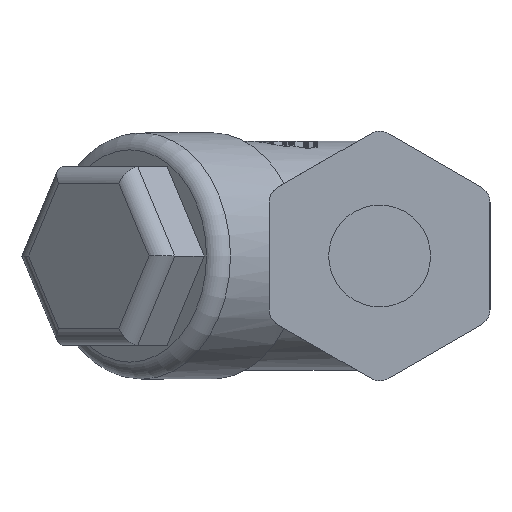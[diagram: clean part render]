
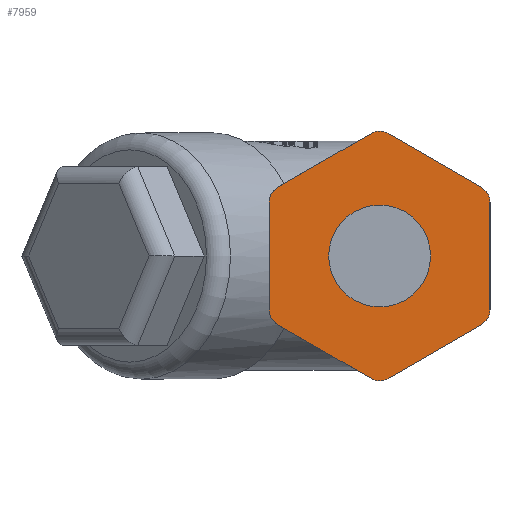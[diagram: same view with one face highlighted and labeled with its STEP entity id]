
A CAD part, left-side view. The second image highlights one B-rep face of the part: STEP entity #7959.
In plain terms, the highlighted planar face has unit normal (-1, 0, 0).
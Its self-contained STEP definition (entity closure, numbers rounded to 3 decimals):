
#7959=ADVANCED_FACE('',(#15030,#15032),#15034,.F.);
#15030=FACE_BOUND('',#15031,.T.);
#15031=EDGE_LOOP('',(#20180,#20181,#20182,#20183,#20184,#20185,#20186,#20187,#20188,
#20189,#20190,#20191));
#15032=FACE_BOUND('',#15033,.T.);
#15033=EDGE_LOOP('',(#20192));
#15034=PLANE('',#15035);
#15035=AXIS2_PLACEMENT_3D('',#15036,#15037,#15038);
#15036=CARTESIAN_POINT('',(146.309,58.497,0.));
#15037=DIRECTION('',(1.,0.,0.));
#15038=DIRECTION('',(0.,0.,-1.));
#20180=ORIENTED_EDGE('',*,*,#21099,.F.);
#20181=ORIENTED_EDGE('',*,*,#21095,.T.);
#20182=ORIENTED_EDGE('',*,*,#21109,.F.);
#20183=ORIENTED_EDGE('',*,*,#21111,.T.);
#20184=ORIENTED_EDGE('',*,*,#21113,.F.);
#20185=ORIENTED_EDGE('',*,*,#21115,.T.);
#20186=ORIENTED_EDGE('',*,*,#21117,.F.);
#20187=ORIENTED_EDGE('',*,*,#21119,.T.);
#20188=ORIENTED_EDGE('',*,*,#21120,.F.);
#20189=ORIENTED_EDGE('',*,*,#21070,.T.);
#20190=ORIENTED_EDGE('',*,*,#21092,.F.);
#20191=ORIENTED_EDGE('',*,*,#21098,.T.);
#20192=ORIENTED_EDGE('',*,*,#20197,.T.);
#20197=EDGE_CURVE('',#22773,#22773,#22774,.T.);
#21070=EDGE_CURVE('',#24504,#24502,#24505,.T.);
#21092=EDGE_CURVE('',#24543,#24502,#24545,.T.);
#21095=EDGE_CURVE('',#24550,#24548,#24551,.T.);
#21098=EDGE_CURVE('',#24543,#24553,#24555,.T.);
#21099=EDGE_CURVE('',#24550,#24553,#24556,.T.);
#21109=EDGE_CURVE('',#24571,#24548,#24573,.T.);
#21111=EDGE_CURVE('',#24571,#24574,#24576,.T.);
#21113=EDGE_CURVE('',#24577,#24574,#24579,.T.);
#21115=EDGE_CURVE('',#24577,#24580,#24582,.T.);
#21117=EDGE_CURVE('',#24583,#24580,#24585,.T.);
#21119=EDGE_CURVE('',#24583,#24586,#24588,.T.);
#21120=EDGE_CURVE('',#24504,#24586,#24589,.T.);
#22773=VERTEX_POINT('',#27070);
#22774=CIRCLE('',#27071,6.);
#24502=VERTEX_POINT('',#31959);
#24504=VERTEX_POINT('',#31963);
#24505=LINE('',#31964,#31965);
#24543=VERTEX_POINT('',#32140);
#24545=CIRCLE('',#32144,2.);
#24548=VERTEX_POINT('',#32152);
#24550=VERTEX_POINT('',#32156);
#24551=LINE('',#32157,#32158);
#24553=VERTEX_POINT('',#32163);
#24555=LINE('',#32167,#32168);
#24556=CIRCLE('',#32170,2.);
#24571=VERTEX_POINT('',#32209);
#24573=CIRCLE('',#32213,2.);
#24574=VERTEX_POINT('',#32217);
#24576=LINE('',#32221,#32222);
#24577=VERTEX_POINT('',#32224);
#24579=CIRCLE('',#32228,2.);
#24580=VERTEX_POINT('',#32232);
#24582=LINE('',#32236,#32237);
#24583=VERTEX_POINT('',#32239);
#24585=CIRCLE('',#32243,2.);
#24586=VERTEX_POINT('',#32247);
#24588=LINE('',#32251,#32252);
#24589=CIRCLE('',#32254,2.);
#27070=CARTESIAN_POINT('',(146.309,52.497,0.));
#27071=AXIS2_PLACEMENT_3D('',#27072,#27073,#27074);
#27072=CARTESIAN_POINT('',(146.309,58.497,0.));
#27073=DIRECTION('',(1.,0.,0.));
#27074=DIRECTION('',(0.,-1.,0.));
#31959=CARTESIAN_POINT('',(146.309,70.497,8.083));
#31963=CARTESIAN_POINT('',(146.309,59.497,14.434));
#31964=CARTESIAN_POINT('',(146.309,59.497,14.434));
#31965=VECTOR('',#31966,1.);
#31966=DIRECTION('',(0.,0.866,-0.5));
#32140=CARTESIAN_POINT('',(146.309,71.497,6.351));
#32144=AXIS2_PLACEMENT_3D('',#32145,#32146,#32147);
#32145=CARTESIAN_POINT('',(146.309,69.497,6.351));
#32146=DIRECTION('',(1.,0.,0.));
#32147=DIRECTION('',(0.,1.,0.));
#32152=CARTESIAN_POINT('',(146.309,59.497,-14.434));
#32156=CARTESIAN_POINT('',(146.309,70.497,-8.083));
#32157=CARTESIAN_POINT('',(146.309,70.497,-8.083));
#32158=VECTOR('',#32159,1.);
#32159=DIRECTION('',(0.,-0.866,-0.5));
#32163=CARTESIAN_POINT('',(146.309,71.497,-6.351));
#32167=CARTESIAN_POINT('',(146.309,71.497,6.351));
#32168=VECTOR('',#32169,1.);
#32169=DIRECTION('',(0.,0.,-1.));
#32170=AXIS2_PLACEMENT_3D('',#32171,#32172,#32173);
#32171=CARTESIAN_POINT('',(146.309,69.497,-6.351));
#32172=DIRECTION('',(1.,0.,0.));
#32173=DIRECTION('',(0.,0.5,-0.866));
#32209=CARTESIAN_POINT('',(146.309,57.497,-14.434));
#32213=AXIS2_PLACEMENT_3D('',#32214,#32215,#32216);
#32214=CARTESIAN_POINT('',(146.309,58.497,-12.702));
#32215=DIRECTION('',(1.,0.,0.));
#32216=DIRECTION('',(0.,-0.5,-0.866));
#32217=CARTESIAN_POINT('',(146.309,46.497,-8.083));
#32221=CARTESIAN_POINT('',(146.309,57.497,-14.434));
#32222=VECTOR('',#32223,1.);
#32223=DIRECTION('',(0.,-0.866,0.5));
#32224=CARTESIAN_POINT('',(146.309,45.497,-6.351));
#32228=AXIS2_PLACEMENT_3D('',#32229,#32230,#32231);
#32229=CARTESIAN_POINT('',(146.309,47.497,-6.351));
#32230=DIRECTION('',(1.,0.,0.));
#32231=DIRECTION('',(0.,-1.,0.));
#32232=CARTESIAN_POINT('',(146.309,45.497,6.351));
#32236=CARTESIAN_POINT('',(146.309,45.497,-6.351));
#32237=VECTOR('',#32238,1.);
#32238=DIRECTION('',(0.,0.,1.));
#32239=CARTESIAN_POINT('',(146.309,46.497,8.083));
#32243=AXIS2_PLACEMENT_3D('',#32244,#32245,#32246);
#32244=CARTESIAN_POINT('',(146.309,47.497,6.351));
#32245=DIRECTION('',(1.,0.,0.));
#32246=DIRECTION('',(0.,-0.5,0.866));
#32247=CARTESIAN_POINT('',(146.309,57.497,14.434));
#32251=CARTESIAN_POINT('',(146.309,46.497,8.083));
#32252=VECTOR('',#32253,1.);
#32253=DIRECTION('',(0.,0.866,0.5));
#32254=AXIS2_PLACEMENT_3D('',#32255,#32256,#32257);
#32255=CARTESIAN_POINT('',(146.309,58.497,12.702));
#32256=DIRECTION('',(1.,0.,0.));
#32257=DIRECTION('',(0.,0.5,0.866));
